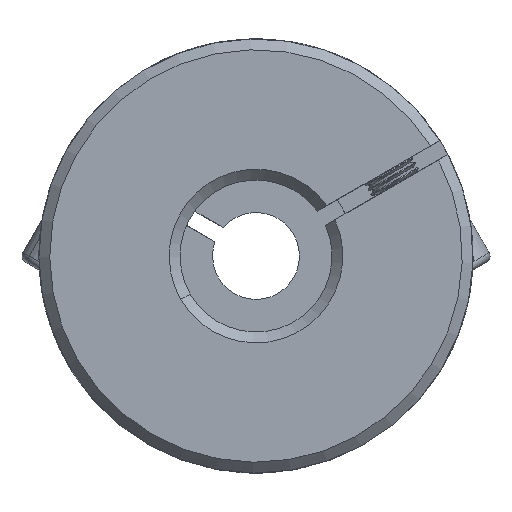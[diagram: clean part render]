
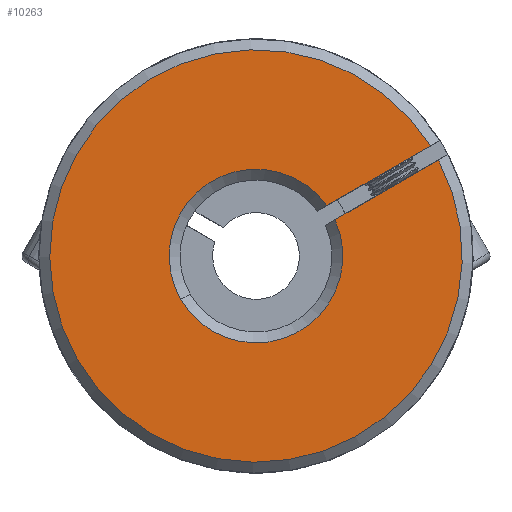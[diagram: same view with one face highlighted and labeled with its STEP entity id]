
A CAD part, front view. The second image highlights one B-rep face of the part: STEP entity #10263.
In plain terms, the highlighted planar face has unit normal (0, -1, 0).
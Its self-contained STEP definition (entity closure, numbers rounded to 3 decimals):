
#185 = AXIS2_PLACEMENT_3D ( 'NONE', #12587, #5073, #7340 ) ;
#353 = LINE ( 'NONE', #10617, #9675 ) ;
#405 = EDGE_CURVE ( 'NONE', #3758, #11611, #2251, .T. ) ;
#573 = EDGE_CURVE ( 'NONE', #3758, #12594, #11674, .T. ) ;
#620 = DIRECTION ( 'NONE',  ( 0., 1., 0. ) ) ;
#840 = ORIENTED_EDGE ( 'NONE', *, *, #4963, .T. ) ;
#985 = DIRECTION ( 'NONE',  ( 0.866, 0., 0.5 ) ) ;
#1115 = VERTEX_POINT ( 'NONE', #2573 ) ;
#1572 = EDGE_CURVE ( 'NONE', #1115, #12594, #6428, .T. ) ;
#1945 = ORIENTED_EDGE ( 'NONE', *, *, #1572, .T. ) ;
#1953 = FACE_OUTER_BOUND ( 'NONE', #4678, .T. ) ;
#2249 = DIRECTION ( 'NONE',  ( 0.5, 0., -0.866 ) ) ;
#2251 = CIRCLE ( 'NONE', #185, 19. ) ;
#2425 = AXIS2_PLACEMENT_3D ( 'NONE', #12298, #5894, #6886 ) ;
#2573 = CARTESIAN_POINT ( 'NONE',  ( -8.374, -31.239, 35.998 ) ) ;
#3354 = CARTESIAN_POINT ( 'NONE',  ( 52.98, -31.239, 45.743 ) ) ;
#3758 = VERTEX_POINT ( 'NONE', #12832 ) ;
#4645 = AXIS2_PLACEMENT_3D ( 'NONE', #3354, #6721, #2249 ) ;
#4678 = EDGE_LOOP ( 'NONE', ( #8108, #840, #1945, #10709, #12941 ) ) ;
#4963 = EDGE_CURVE ( 'NONE', #8333, #1115, #11414, .T. ) ;
#5073 = DIRECTION ( 'NONE',  ( 0., -1., 0. ) ) ;
#5894 = DIRECTION ( 'NONE',  ( 0., 1., 0. ) ) ;
#6194 = CARTESIAN_POINT ( 'NONE',  ( -1.447, -31.239, 40. ) ) ;
#6428 = CIRCLE ( 'NONE', #12322, 8. ) ;
#6528 = DIRECTION ( 'NONE',  ( -0.866, 0., -0.5 ) ) ;
#6721 = DIRECTION ( 'NONE',  ( 0., 1., 0. ) ) ;
#6886 = DIRECTION ( 'NONE',  ( 0.5, 0., -0.866 ) ) ;
#7340 = DIRECTION ( 'NONE',  ( 0.5, 0., -0.866 ) ) ;
#7647 = VECTOR ( 'NONE', #6528, 1000. ) ;
#8002 = CARTESIAN_POINT ( 'NONE',  ( 15.367, -31.239, 48.848 ) ) ;
#8108 = ORIENTED_EDGE ( 'NONE', *, *, #12432, .F. ) ;
#8188 = DIRECTION ( 'NONE',  ( 0.5, 0., -0.866 ) ) ;
#8333 = VERTEX_POINT ( 'NONE', #12002 ) ;
#8735 = CARTESIAN_POINT ( 'NONE',  ( 5.074, -31.239, 44.634 ) ) ;
#9675 = VECTOR ( 'NONE', #985, 1000. ) ;
#10263 = ADVANCED_FACE ( 'NONE', ( #1953 ), #10907, .F. ) ;
#10617 = CARTESIAN_POINT ( 'NONE',  ( 4.954, -31.239, 42.832 ) ) ;
#10709 = ORIENTED_EDGE ( 'NONE', *, *, #573, .F. ) ;
#10907 = PLANE ( 'NONE',  #4645 ) ;
#11414 = CIRCLE ( 'NONE', #2425, 8. ) ;
#11611 = VERTEX_POINT ( 'NONE', #8002 ) ;
#11674 = LINE ( 'NONE', #12190, #7647 ) ;
#12002 = CARTESIAN_POINT ( 'NONE',  ( 5.825, -31.239, 43.335 ) ) ;
#12190 = CARTESIAN_POINT ( 'NONE',  ( 4.204, -31.239, 44.131 ) ) ;
#12298 = CARTESIAN_POINT ( 'NONE',  ( -1.447, -31.239, 40. ) ) ;
#12322 = AXIS2_PLACEMENT_3D ( 'NONE', #6194, #620, #8188 ) ;
#12432 = EDGE_CURVE ( 'NONE', #8333, #11611, #353, .T. ) ;
#12587 = CARTESIAN_POINT ( 'NONE',  ( -1.447, -31.239, 40. ) ) ;
#12594 = VERTEX_POINT ( 'NONE', #8735 ) ;
#12832 = CARTESIAN_POINT ( 'NONE',  ( 14.616, -31.239, 50.147 ) ) ;
#12941 = ORIENTED_EDGE ( 'NONE', *, *, #405, .T. ) ;
